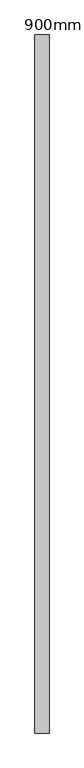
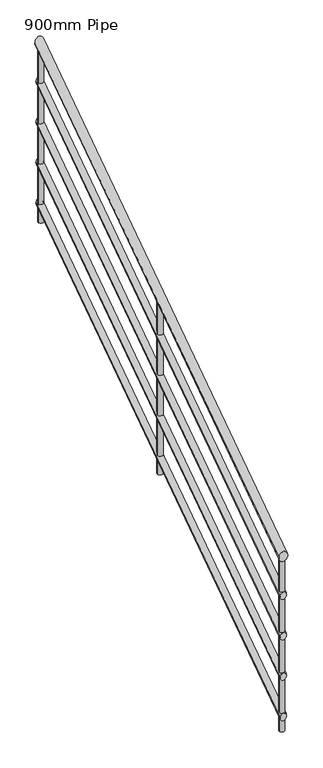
"""IFC4 building model written with IfcOpenShell, lengths in millimetres: railing geometry, 900mm Pipe."""

from ifc_helpers import new_model, si_unit, frame, origin, place, context, project, spatial, circle_curve, ellipse_curve, source, transform, mapped, element, save
from ifc_brep_helpers import plane_surface, cylinder_surface, advanced_brep


def railing_900mm_pipe_2c63970b(model_context):
    return source(origin(), model_context, "Body", "AdvancedBrep", [
        advanced_brep(
        [(-7788.3266822, -8881.7671527, -474.2064126), (-7828.3266822, -8881.7671527, -474.2064126), (-7788.3266822, -6901.7671527, 875.7935874), (-7828.3266822, -6901.7671527, 875.7935874)],
        [
            (0, 1, ellipse_curve(frame((-7808.3266822, -8881.7671527, -474.2064126), z_axis=(0.0, -1.0, 0.0), x_axis=(0.0, 0.0, -1.0)), 24.2064126, 20.0)),
            (1, 0, ellipse_curve(frame((-7808.3266822, -8881.7671527, -474.2064126), z_axis=(0.0, -1.0, 0.0), x_axis=(0.0, 0.0, -1.0)), 24.2064126, 20.0)),
            (2, 3, ellipse_curve(frame((-7808.3266822, -6901.7671527, 875.7935874), z_axis=(0.0, 1.0, 0.0), x_axis=(0.0, 0.0, -1.0)), 24.2064126, 20.0)),
            (3, 2, ellipse_curve(frame((-7808.3266822, -6901.7671527, 875.7935874), z_axis=(0.0, 1.0, 0.0), x_axis=(0.0, 0.0, -1.0)), 24.2064126, 20.0)),
            (0, 2),
            (3, 1),
        ],
        [
            plane_surface(frame((-7808.3266822, -8881.7671527, -450.0), z_axis=(0.0, -1.0, 0.0), x_axis=(0.0, 0.0, 1.0))),
            plane_surface(frame((-7808.3266822, -6901.7671527, 900.0), z_axis=(0.0, 1.0, 0.0), x_axis=(0.0, 0.0, 1.0))),
            cylinder_surface(frame((-7808.3266822, -8870.5004163, -466.5245469), z_axis=(0.0, -0.8262273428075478, -0.5633368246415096), x_axis=(-1.0, 0.0, 0.0)), 20.0),
        ],
        [
            (0, [[1, 2]]),
            (1, [[3, 4]]),
            (2, [[-1, 5, -4, 6]]),
            (2, [[-2, -6, -3, -5]]),
        ],
    ),
        advanced_brep(
        [(-7793.3266822, -8881.7671527, -668.1548095), (-7823.3266822, -8881.7671527, -668.1548095), (-7793.3266822, -6901.7671527, 681.8451905), (-7823.3266822, -6901.7671527, 681.8451905)],
        [
            (0, 1, ellipse_curve(frame((-7808.3266822, -8881.7671527, -668.1548095), z_axis=(0.0, -1.0, 0.0), x_axis=(0.0, 0.0, -1.0)), 18.1548095, 15.0)),
            (1, 0, ellipse_curve(frame((-7808.3266822, -8881.7671527, -668.1548095), z_axis=(0.0, -1.0, 0.0), x_axis=(0.0, 0.0, -1.0)), 18.1548095, 15.0)),
            (2, 3, ellipse_curve(frame((-7808.3266822, -6901.7671527, 681.8451905), z_axis=(0.0, 1.0, 0.0), x_axis=(0.0, 0.0, -1.0)), 18.1548095, 15.0)),
            (3, 2, ellipse_curve(frame((-7808.3266822, -6901.7671527, 681.8451905), z_axis=(0.0, 1.0, 0.0), x_axis=(0.0, 0.0, -1.0)), 18.1548095, 15.0)),
            (0, 2),
            (3, 1),
        ],
        [
            plane_surface(frame((-7808.3266822, -8881.7671527, -650.0), z_axis=(0.0, -1.0, 0.0), x_axis=(0.0, 0.0, 1.0))),
            plane_surface(frame((-7808.3266822, -6901.7671527, 700.0), z_axis=(0.0, 1.0, 0.0), x_axis=(0.0, 0.0, 1.0))),
            cylinder_surface(frame((-7808.3266822, -8873.3171004, -662.3934101), z_axis=(0.0, -0.8262273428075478, -0.5633368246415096), x_axis=(-1.0, 0.0, 0.0)), 15.0),
        ],
        [
            (0, [[1, 2]]),
            (1, [[3, 4]]),
            (2, [[-1, 5, -4, 6]]),
            (2, [[-2, -6, -3, -5]]),
        ],
    ),
        advanced_brep(
        [(-7793.3266822, -8881.7671527, -868.1548095), (-7823.3266822, -8881.7671527, -868.1548095), (-7793.3266822, -6901.7671527, 481.8451905), (-7823.3266822, -6901.7671527, 481.8451905)],
        [
            (0, 1, ellipse_curve(frame((-7808.3266822, -8881.7671527, -868.1548095), z_axis=(0.0, -1.0, 0.0), x_axis=(0.0, 0.0, -1.0)), 18.1548095, 15.0)),
            (1, 0, ellipse_curve(frame((-7808.3266822, -8881.7671527, -868.1548095), z_axis=(0.0, -1.0, 0.0), x_axis=(0.0, 0.0, -1.0)), 18.1548095, 15.0)),
            (2, 3, ellipse_curve(frame((-7808.3266822, -6901.7671527, 481.8451905), z_axis=(0.0, 1.0, 0.0), x_axis=(0.0, 0.0, -1.0)), 18.1548095, 15.0)),
            (3, 2, ellipse_curve(frame((-7808.3266822, -6901.7671527, 481.8451905), z_axis=(0.0, 1.0, 0.0), x_axis=(0.0, 0.0, -1.0)), 18.1548095, 15.0)),
            (0, 2),
            (3, 1),
        ],
        [
            plane_surface(frame((-7808.3266822, -8881.7671527, -850.0), z_axis=(0.0, -1.0, 0.0), x_axis=(0.0, 0.0, 1.0))),
            plane_surface(frame((-7808.3266822, -6901.7671527, 500.0), z_axis=(0.0, 1.0, 0.0), x_axis=(0.0, 0.0, 1.0))),
            cylinder_surface(frame((-7808.3266822, -8873.3171004, -862.3934101), z_axis=(0.0, -0.8262273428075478, -0.5633368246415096), x_axis=(-1.0, 0.0, 0.0)), 15.0),
        ],
        [
            (0, [[1, 2]]),
            (1, [[3, 4]]),
            (2, [[-1, 5, -4, 6]]),
            (2, [[-2, -6, -3, -5]]),
        ],
    ),
        advanced_brep(
        [(-7793.3266822, -8881.7671527, -1068.1548095), (-7823.3266822, -8881.7671527, -1068.1548095), (-7793.3266822, -6901.7671527, 281.8451905), (-7823.3266822, -6901.7671527, 281.8451905)],
        [
            (0, 1, ellipse_curve(frame((-7808.3266822, -8881.7671527, -1068.1548095), z_axis=(0.0, -1.0, 0.0), x_axis=(0.0, 0.0, -1.0)), 18.1548095, 15.0)),
            (1, 0, ellipse_curve(frame((-7808.3266822, -8881.7671527, -1068.1548095), z_axis=(0.0, -1.0, 0.0), x_axis=(0.0, 0.0, -1.0)), 18.1548095, 15.0)),
            (2, 3, ellipse_curve(frame((-7808.3266822, -6901.7671527, 281.8451905), z_axis=(0.0, 1.0, 0.0), x_axis=(0.0, 0.0, -1.0)), 18.1548095, 15.0)),
            (3, 2, ellipse_curve(frame((-7808.3266822, -6901.7671527, 281.8451905), z_axis=(0.0, 1.0, 0.0), x_axis=(0.0, 0.0, -1.0)), 18.1548095, 15.0)),
            (0, 2),
            (3, 1),
        ],
        [
            plane_surface(frame((-7808.3266822, -8881.7671527, -1050.0), z_axis=(0.0, -1.0, 0.0), x_axis=(0.0, 0.0, 1.0))),
            plane_surface(frame((-7808.3266822, -6901.7671527, 300.0), z_axis=(0.0, 1.0, 0.0), x_axis=(0.0, 0.0, 1.0))),
            cylinder_surface(frame((-7808.3266822, -8873.3171004, -1062.3934101), z_axis=(0.0, -0.8262273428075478, -0.5633368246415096), x_axis=(-1.0, 0.0, 0.0)), 15.0),
        ],
        [
            (0, [[1, 2]]),
            (1, [[3, 4]]),
            (2, [[-1, 5, -4, 6]]),
            (2, [[-2, -6, -3, -5]]),
        ],
    ),
        advanced_brep(
        [(-7793.3266822, -8881.7671527, -1268.1548095), (-7823.3266822, -8881.7671527, -1268.1548095), (-7793.3266822, -6901.7671527, 81.8451905), (-7823.3266822, -6901.7671527, 81.8451905)],
        [
            (0, 1, ellipse_curve(frame((-7808.3266822, -8881.7671527, -1268.1548095), z_axis=(0.0, -1.0, 0.0), x_axis=(0.0, 0.0, -1.0)), 18.1548095, 15.0)),
            (1, 0, ellipse_curve(frame((-7808.3266822, -8881.7671527, -1268.1548095), z_axis=(0.0, -1.0, 0.0), x_axis=(0.0, 0.0, -1.0)), 18.1548095, 15.0)),
            (2, 3, ellipse_curve(frame((-7808.3266822, -6901.7671527, 81.8451905), z_axis=(0.0, 1.0, 0.0), x_axis=(0.0, 0.0, -1.0)), 18.1548095, 15.0)),
            (3, 2, ellipse_curve(frame((-7808.3266822, -6901.7671527, 81.8451905), z_axis=(0.0, 1.0, 0.0), x_axis=(0.0, 0.0, -1.0)), 18.1548095, 15.0)),
            (0, 2),
            (3, 1),
        ],
        [
            plane_surface(frame((-7808.3266822, -8881.7671527, -1250.0), z_axis=(0.0, -1.0, 0.0), x_axis=(0.0, 0.0, 1.0))),
            plane_surface(frame((-7808.3266822, -6901.7671527, 100.0), z_axis=(0.0, 1.0, 0.0), x_axis=(0.0, 0.0, 1.0))),
            cylinder_surface(frame((-7808.3266822, -8873.3171004, -1262.3934101), z_axis=(0.0, -0.8262273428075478, -0.5633368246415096), x_axis=(-1.0, 0.0, 0.0)), 15.0),
        ],
        [
            (0, [[1, 2]]),
            (1, [[3, 4]]),
            (2, [[-1, 5, -4, 6]]),
            (2, [[-2, -6, -3, -5]]),
        ],
    ),
        advanced_brep(
        [(-7820.8266822, -7881.7671527, 183.4053565), (-7795.8266822, -7881.7671527, 183.4053565), (-7795.8266822, -7881.7671527, -668.1818182), (-7820.8266822, -7881.7671527, -668.1818182)],
        [
            (0, 1, ellipse_curve(frame((-7808.3266822, -7881.7671527, 183.4053565), z_axis=(0.0, 0.5633368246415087, -0.8262273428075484), x_axis=(0.0, 0.8262273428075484, 0.5633368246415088)), 15.1290079, 12.5)),
            (1, 2),
            (2, 3, circle_curve(frame((-7808.3266822, -7881.7671527, -668.1818182), z_axis=(0.0, 0.0, 1.0), x_axis=(1.0, 0.0, 0.0)), 12.5)),
            (3, 0),
            (3, 2, circle_curve(frame((-7808.3266822, -7881.7671527, -668.1818182), z_axis=(0.0, 0.0, 1.0), x_axis=(1.0, 0.0, 0.0)), 12.5)),
            (1, 0, ellipse_curve(frame((-7808.3266822, -7881.7671527, 183.4053565), z_axis=(0.0, 0.5633368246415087, -0.8262273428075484), x_axis=(0.0, 0.8262273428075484, 0.5633368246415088)), 15.1290079, 12.5)),
        ],
        [
            cylinder_surface(frame((-7808.3266822, -7881.7671527, -768.1818182), z_axis=(0.0, 0.0, 1.0), x_axis=(1.0, 0.0, 0.0)), 12.5),
            plane_surface(frame((-7783.3266822, -7856.7671527, 200.4508111), z_axis=(0.0, -0.5633368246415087, 0.8262273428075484), x_axis=(-1.0, 0.0, 0.0))),
            plane_surface(frame((-7783.3266822, -7906.7671527, -668.1818182), z_axis=(0.0, 0.0, -1.0), x_axis=(-1.0, 0.0, 0.0))),
        ],
        [
            (0, [[1, 2, 3, 4]]),
            (0, [[5, -2, 6, -4]]),
            (1, [[-6, -1]]),
            (2, [[-5, -3]]),
        ],
    ),
        advanced_brep(
        [(-7820.8266822, -6914.2671527, 843.0644474), (-7795.8266822, -6914.2671527, 843.0644474), (-7795.8266822, -6914.2671527, -8.5227273), (-7820.8266822, -6914.2671527, -8.5227273)],
        [
            (0, 1, ellipse_curve(frame((-7808.3266822, -6914.2671527, 843.0644474), z_axis=(0.0, 0.5633368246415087, -0.8262273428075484), x_axis=(0.0, 0.8262273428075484, 0.5633368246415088)), 15.1290079, 12.5)),
            (1, 2),
            (2, 3, circle_curve(frame((-7808.3266822, -6914.2671527, -8.5227273), z_axis=(0.0, 0.0, 1.0), x_axis=(1.0, 0.0, 0.0)), 12.5)),
            (3, 0),
            (3, 2, circle_curve(frame((-7808.3266822, -6914.2671527, -8.5227273), z_axis=(0.0, 0.0, 1.0), x_axis=(1.0, 0.0, 0.0)), 12.5)),
            (1, 0, ellipse_curve(frame((-7808.3266822, -6914.2671527, 843.0644474), z_axis=(0.0, 0.5633368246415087, -0.8262273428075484), x_axis=(0.0, 0.8262273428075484, 0.5633368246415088)), 15.1290079, 12.5)),
        ],
        [
            cylinder_surface(frame((-7808.3266822, -6914.2671527, -108.5227273), z_axis=(0.0, 0.0, 1.0), x_axis=(1.0, 0.0, 0.0)), 12.5),
            plane_surface(frame((-7783.3266822, -6889.2671527, 860.109902), z_axis=(0.0, -0.5633368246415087, 0.8262273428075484), x_axis=(-1.0, 0.0, 0.0))),
            plane_surface(frame((-7783.3266822, -6939.2671527, -8.5227273), z_axis=(0.0, 0.0, -1.0), x_axis=(-1.0, 0.0, 0.0))),
        ],
        [
            (0, [[1, 2, 3, 4]]),
            (0, [[5, -2, 6, -4]]),
            (1, [[-6, -1]]),
            (2, [[-5, -3]]),
        ],
    ),
        advanced_brep(
        [(-7820.8266822, -8869.2671527, -489.890098), (-7795.8266822, -8869.2671527, -489.890098), (-7795.8266822, -8869.2671527, -1341.4772727), (-7820.8266822, -8869.2671527, -1341.4772727)],
        [
            (0, 1, ellipse_curve(frame((-7808.3266822, -8869.2671527, -489.890098), z_axis=(0.0, 0.5633368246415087, -0.8262273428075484), x_axis=(0.0, 0.8262273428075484, 0.5633368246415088)), 15.1290079, 12.5)),
            (1, 2),
            (2, 3, circle_curve(frame((-7808.3266822, -8869.2671527, -1341.4772727), z_axis=(0.0, 0.0, 1.0), x_axis=(1.0, 0.0, 0.0)), 12.5)),
            (3, 0),
            (3, 2, circle_curve(frame((-7808.3266822, -8869.2671527, -1341.4772727), z_axis=(0.0, 0.0, 1.0), x_axis=(1.0, 0.0, 0.0)), 12.5)),
            (1, 0, ellipse_curve(frame((-7808.3266822, -8869.2671527, -489.890098), z_axis=(0.0, 0.5633368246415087, -0.8262273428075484), x_axis=(0.0, 0.8262273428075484, 0.5633368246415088)), 15.1290079, 12.5)),
        ],
        [
            cylinder_surface(frame((-7808.3266822, -8869.2671527, -1441.4772727), z_axis=(0.0, 0.0, 1.0), x_axis=(1.0, 0.0, 0.0)), 12.5),
            plane_surface(frame((-7783.3266822, -8844.2671527, -472.8446435), z_axis=(0.0, -0.5633368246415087, 0.8262273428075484), x_axis=(-1.0, 0.0, 0.0))),
            plane_surface(frame((-7783.3266822, -8894.2671527, -1341.4772727), z_axis=(0.0, 0.0, -1.0), x_axis=(-1.0, 0.0, 0.0))),
        ],
        [
            (0, [[1, 2, 3, 4]]),
            (0, [[5, -2, 6, -4]]),
            (1, [[-6, -1]]),
            (2, [[-5, -3]]),
        ],
    ),
    ])


if __name__ == "__main__":
    model = new_model("IFC4")
    model_context = context("Model", 3, world=origin())
    ifc_project = project(units=[si_unit("LENGTHUNIT", "METRE", prefix="MILLI")], contexts=[model_context])
    site = spatial("IfcSite", under=ifc_project)
    building = spatial("IfcBuilding", under=site)
    placement = place(None, origin())
    railing_900mm_pipe_shape = railing_900mm_pipe_2c63970b(model_context)
    element("IfcRailing", 1, ObjectType="900mm Pipe", at=placement, inside=building, context=model_context, shape_type="MappedRepresentation", body=[
        mapped(railing_900mm_pipe_shape, transform((0.0, 0.0, 0.0), x_axis=(1.0, 0.0, 0.0), y_axis=(0.0, 1.0, 0.0), z_axis=(0.0, 0.0, 1.0))),
    ])
    save(model, "model.ifc")
